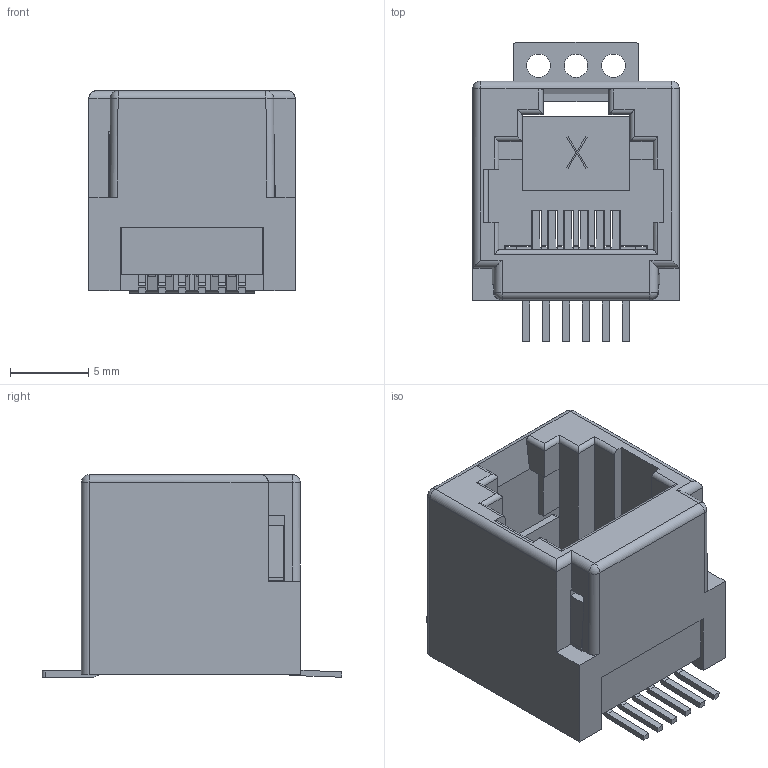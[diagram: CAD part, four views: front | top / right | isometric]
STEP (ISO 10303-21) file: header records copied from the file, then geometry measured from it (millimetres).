
FILE_DESCRIPTION((''),'2;1');
FILE_NAME('DGKYD52D1166IWW6SB3009','2023-03-31T10:55:16',('Administrator'),(''),'CREO PARAMETRIC BY PTC INC, 2019010','CREO PARAMETRIC BY PTC INC, 2019010','');
FILE_SCHEMA(('CONFIG_CONTROL_DESIGN'));
Length unit declared in the file: millimetre
Products named in the file (1): DGKYD52D1166IWW6SB3009
Bounding box: 13.2 x 19.15 x 12.95 mm (x, y, z)
Volume: 1182 mm3; surface area: 2248.2 mm2
Topology: 1 solids, 3 shells, 423 faces, 1236 edges, 800 vertices
Faces by surface type: plane 322, cylinder 97, sphere 4
Entity records: 13982 total; most frequent: CARTESIAN_POINT 2587, ORIENTED_EDGE 2464, DIRECTION 2232, EDGE_CURVE 1232, VECTOR 1038, LINE 1038, VERTEX_POINT 800, AXIS2_PLACEMENT_3D 597
